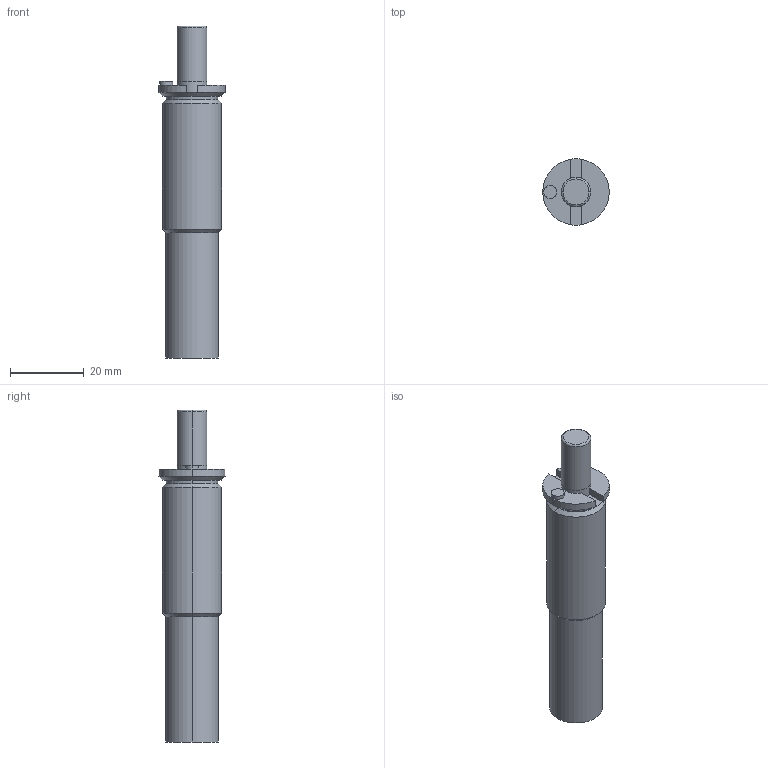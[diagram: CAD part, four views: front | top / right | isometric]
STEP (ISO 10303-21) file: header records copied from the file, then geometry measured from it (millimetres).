
FILE_DESCRIPTION(/* description */ (''),/* implementation_level */ '2;1');
FILE_NAME(/* name */ '3d_mgsb16-15_04562_r00.stp',/* time_stamp */ '2011-01-10T14:13:36+09:00',/* author */ ('MISUMI'),/* organization */ (''),/* preprocessor_version */ 'ST-DEVELOPER v11',/* originating_system */ 'UGS - NX 5.0',/* authorisation */ '');
FILE_SCHEMA (('CONFIG_CONTROL_DESIGN'));
Length unit declared in the file: millimetre
Products named in the file (1): 3d_mgsb16-15_04562_r00
Bounding box: 18 x 17.97 x 90 mm (x, y, z)
Volume: 14221.1 mm3; surface area: 4499.6 mm2
Topology: 1 solids, 1 shells, 36 faces, 78 edges, 46 vertices
Faces by surface type: cylinder 16, plane 12, cone 6, torus 2
Entity records: 1066 total; most frequent: DIRECTION 194, CARTESIAN_POINT 161, ORIENTED_EDGE 156, AXIS2_PLACEMENT_3D 79, EDGE_CURVE 78, VERTEX_POINT 46, CIRCLE 42, EDGE_LOOP 38
